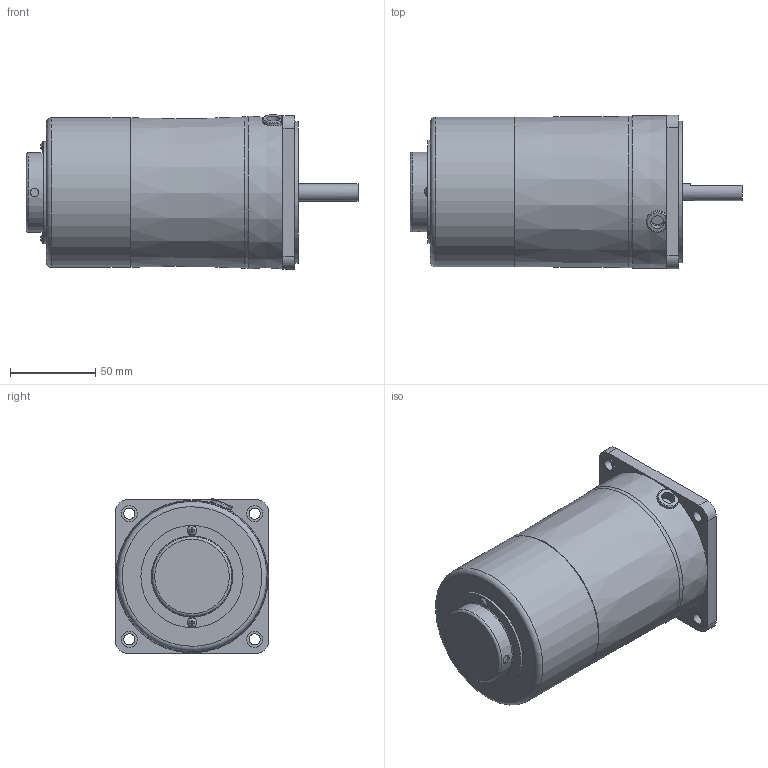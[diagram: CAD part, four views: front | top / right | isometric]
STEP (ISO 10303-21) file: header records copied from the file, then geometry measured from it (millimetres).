
FILE_DESCRIPTION((''),'2;1');
FILE_NAME('D:\STP파일\40W MOTOR\ES TYPE\S9I40D-ES.stp','2013-05-20T16:52:26',('leebh'),(''),'Autodesk Inventor 2011','Autodesk Inventor 2011','');
FILE_SCHEMA(('AUTOMOTIVE_DESIGN { 1 0 10303 214 1 1 1 1 }'));
Length unit declared in the file: millimetre
Products named in the file (1): 부품3
Bounding box: 194.5 x 90 x 90.6 mm (x, y, z)
Volume: 918329 mm3; surface area: 64264.4 mm2
Topology: 1 solids, 6 shells, 142 faces, 330 edges, 217 vertices
Faces by surface type: plane 85, cylinder 43, torus 10, cone 2, bspline 2
Full cylindrical faces by diameter (mm): 3 x2, 3.5 x2, 5 x1, 5.6 x2, 6.5 x4, 8 x1, 9.5 x4, 10 x2, 40 x1, 44.7 x1, 46.7 x1, 47.7 x1, 59.9 x1, 83 x1, 86 x1, 87.8 x1
Entity records: 4099 total; most frequent: CARTESIAN_POINT 963, DIRECTION 628, ORIENTED_EDGE 558, EDGE_CURVE 279, AXIS2_PLACEMENT_3D 239, EDGE_LOOP 215, VERTEX_POINT 206, VECTOR 150
